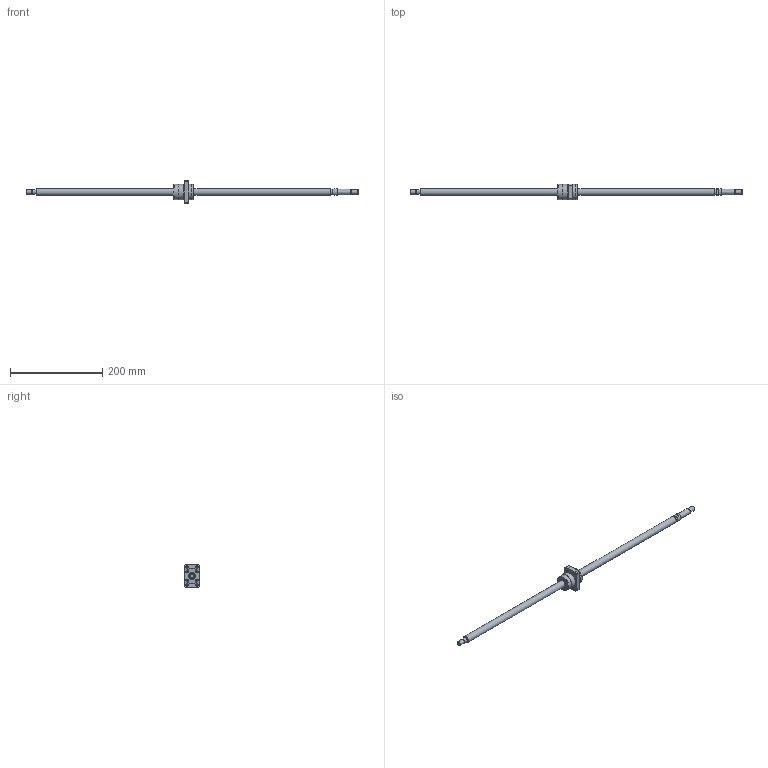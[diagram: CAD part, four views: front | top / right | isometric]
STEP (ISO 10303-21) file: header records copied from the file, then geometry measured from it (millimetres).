
FILE_DESCRIPTION(/* description */ ('STEP AP203'),/* implementation_level */ '2;1');
FILE_NAME(/* name */ 'BNK1510-5.6G0+721LC5Y(341.50)',/* time_stamp */ '2024-07-09T09:23:13+02:00',/* author */ ('License CC BY-ND 4.0'),/* organization */ ('CADENAS'),/* preprocessor_version */ 'ST-DEVELOPER v19.3',/* originating_system */ 'PARTsolutions',/* authorisation */ ' ');
FILE_SCHEMA (('CONFIG_CONTROL_DESIGN'));
Length unit declared in the file: millimetre
Products named in the file (3): BNK1510-5.6G0+721LC5Y(341.50); BNK 1510-5.6G0+721LC5Y Shaft; BNK 1510-5.6G0+721LC5Y0 Nut
Assembly tree (2 placements, depth 2):
  BNK1510-5.6G0+721LC5Y(341.50)
    BNK 1510-5.6G0+721LC5Y Shaft
    BNK 1510-5.6G0+721LC5Y0 Nut
Bounding box: 721 x 34 x 50 mm (x, y, z)
Volume: 158013.9 mm3; surface area: 45265 mm2
Topology: 2 solids, 2 shells, 137 faces, 313 edges, 202 vertices
Faces by surface type: plane 76, cylinder 35, cone 20, torus 6
Full cylindrical faces by diameter (mm): 5.188 x1, 5.5 x8, 9.5 x4, 9.6 x1, 10 x3, 12 x1, 13 x1, 15 x3, 30.6 x1, 33 x2, 34 x2
Entity records: 3729 total; most frequent: CARTESIAN_POINT 677, DIRECTION 632, ORIENTED_EDGE 534, EDGE_CURVE 267, AXIS2_PLACEMENT_3D 249, FACE_BOUND 211, EDGE_LOOP 210, VERTEX_POINT 198
